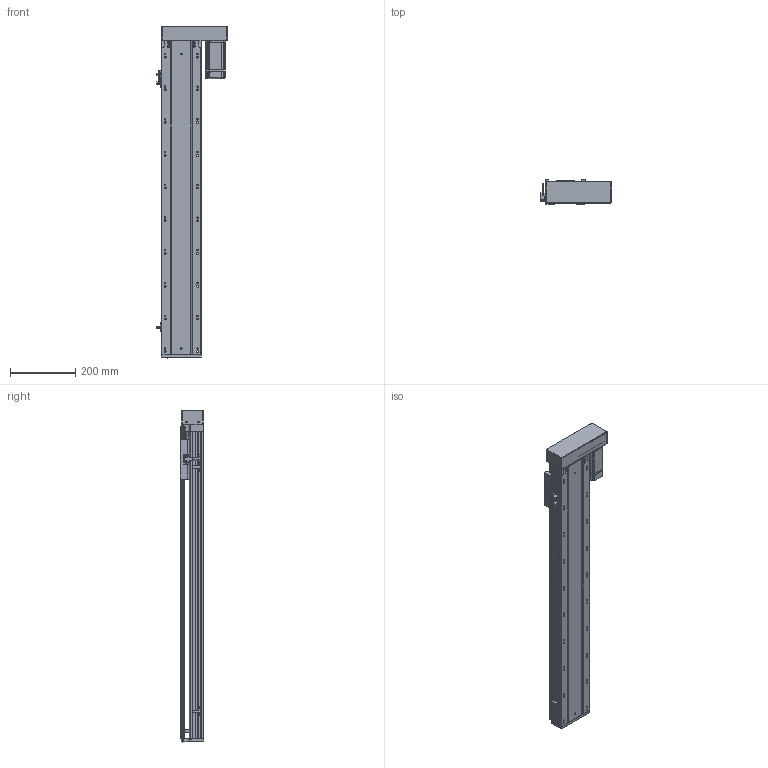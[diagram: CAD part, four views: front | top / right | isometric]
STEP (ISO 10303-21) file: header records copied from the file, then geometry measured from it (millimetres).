
FILE_DESCRIPTION (( 'STEP AP203' ), '1' );
FILE_NAME ('RY120-L1620-300-RK.SLDASM_750.step', '2021-02-22T02:30:13', ( '盈信电脑' ), ( '东莞市道滘镇水果街19号' ), 'SwSTEP 2.0', 'SolidWorks 2012', '' );
FILE_SCHEMA (( 'CONFIG_CONTROL_DESIGN' ));
Length unit declared in the file: millimetre
Products named in the file (14): RY120-L1620-300-RK.SLDASM_750; 侂狟400W侜督萇儂; RY120蛌殏萇儂欶; RY120酘殏萇儂假蚾啣; RY120外置感应片(140共用）; 15; RY120转拆电端丝杆支撑座; 覜茼ん672; 滅袉蝶18-10; 滅袉蝶18-24; RY120綴裔啣; RY120-300-RK蛌殏倰第菁釱_750; RY120-300-RK蛌殏倰第奻裔啣_750; RY120臏賑輸
Assembly tree (16 placements, depth 3):
  RY120-L1620-300-RK.SLDASM_750
    RY120-300-RK蛌殏倰第菁釱_750
    RY120-300-RK蛌殏倰第奻裔啣_750
    RY120臏賑輸
    RY120綴裔啣
    覜茼ん672  x3
    滅袉蝶18-10
    滅袉蝶18-24  x2
    RY120外置感应片(140共用）
    RY120转拆电端丝杆支撑座
    RY120酘殏萇儂假蚾啣
    侂狟400W侜督萇儂
      15
    RY120蛌殏萇儂欶
Bounding box: 214.4 x 73 x 1014 mm (x, y, z)
Volume: 3036368.6 mm3; surface area: 1099407.9 mm2
Topology: 16 solids, 16 shells, 2550 faces, 7051 edges, 4524 vertices
Faces by surface type: plane 1246, cylinder 982, cone 217, bspline 105
Entity records: 85496 total; most frequent: CARTESIAN_POINT 24617, ORIENTED_EDGE 12806, DIRECTION 11691, EDGE_CURVE 6403, VERTEX_POINT 4192, AXIS2_PLACEMENT_3D 3903, LINE 3885, VECTOR 3885
